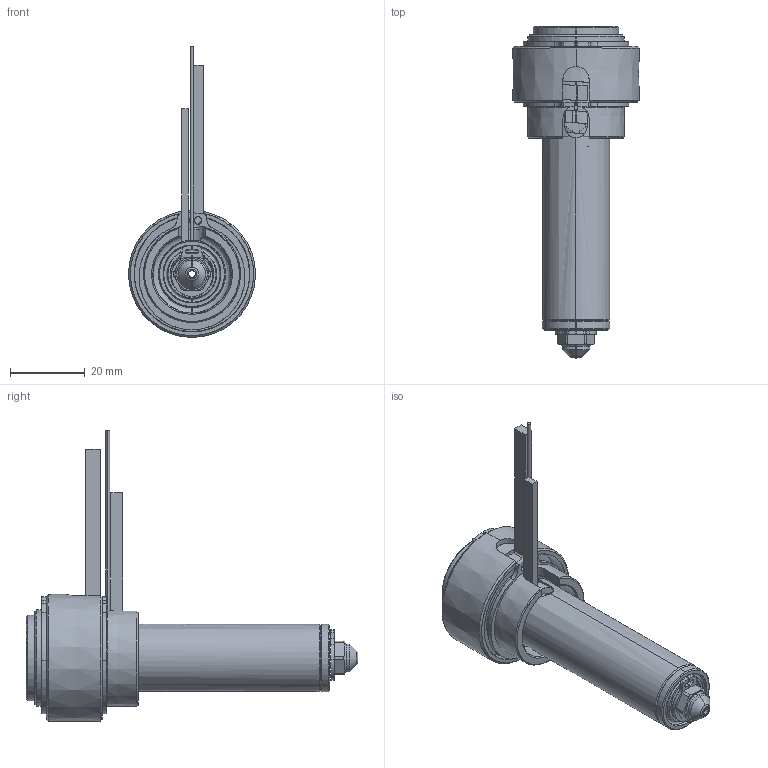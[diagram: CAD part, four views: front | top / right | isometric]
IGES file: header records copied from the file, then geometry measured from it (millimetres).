
Start section: SolidWorks IGES file using analytic representation for surfaces
Global section: file name: C:\Documents and Settings\ws-20\Desktop\TEM\UGER2502-M-A-0 [Øb-1.90 ØC-4.0].IGS; native system: SolidWorks 2012; preprocessor: SolidWorks 2012; author: ws-20; date: 120405.101728; units: millimetre
Bounding box: 34 x 88.9 x 77.9 mm (x, y, z)
Surface area: 23541.1 mm2 (no closed solid volume)
Topology: 0 solids, 0 shells, 192 faces, 2541 edges, 2541 vertices
Faces by surface type: revolution 121, bspline 71
